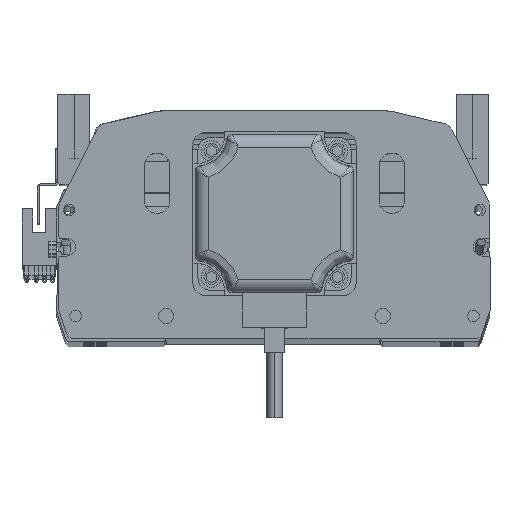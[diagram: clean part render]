
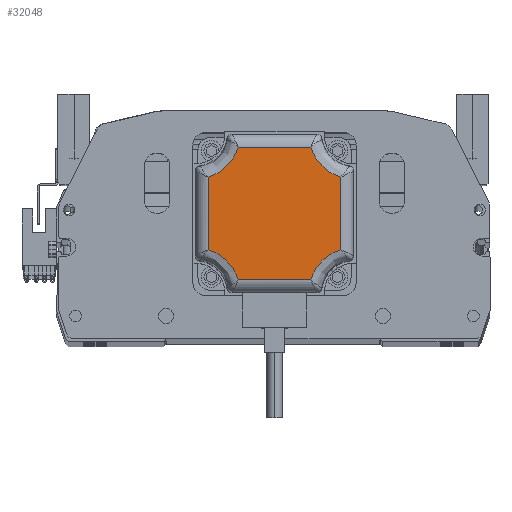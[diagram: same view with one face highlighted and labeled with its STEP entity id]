
A CAD part, top view. The second image highlights one B-rep face of the part: STEP entity #32048.
In plain terms, the highlighted planar face has unit normal (0, 0, 1) as drawn and (0, 0, -1) by its records, which use the part's own axes.
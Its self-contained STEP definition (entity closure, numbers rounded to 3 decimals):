
#1279 = CARTESIAN_POINT ( 'NONE',  ( 20.219, -15.953, -116.5 ) ) ;
#1881 = CARTESIAN_POINT ( 'NONE',  ( 14.229, 26., -116.5 ) ) ;
#3511 = ORIENTED_EDGE ( 'NONE', *, *, #37948, .F. ) ;
#4332 =( BOUNDED_CURVE ( )  B_SPLINE_CURVE ( 3, ( #40547, #37127, #5686, #33025 ),
 .UNSPECIFIED., .F., .F. ) 
 B_SPLINE_CURVE_WITH_KNOTS ( ( 4, 4 ),
 ( 0., 1. ),
 .UNSPECIFIED. ) 
 CURVE ( )  GEOMETRIC_REPRESENTATION_ITEM ( )  RATIONAL_B_SPLINE_CURVE ( ( 1., 0.92, 0.92, 1. ) ) 
 REPRESENTATION_ITEM ( '' )  );
#5066 = CARTESIAN_POINT ( 'NONE',  ( 26., -14.229, -116.5 ) ) ;
#5686 = CARTESIAN_POINT ( 'NONE',  ( 15.953, 20.219, -116.5 ) ) ;
#7280 = CARTESIAN_POINT ( 'NONE',  ( 14.229, -26., -116.5 ) ) ;
#8151 = CARTESIAN_POINT ( 'NONE',  ( 26., -14.229, -116.5 ) ) ;
#9437 = FACE_OUTER_BOUND ( 'NONE', #34401, .T. ) ;
#9600 = DIRECTION ( 'NONE',  ( 0., 0., 1. ) ) ;
#10141 = EDGE_CURVE ( 'NONE', #24956, #11980, #4332, .T. ) ;
#10224 = LINE ( 'NONE', #40934, #20117 ) ;
#11355 = ORIENTED_EDGE ( 'NONE', *, *, #10141, .F. ) ;
#11980 = VERTEX_POINT ( 'NONE', #1881 ) ;
#12062 = DIRECTION ( 'NONE',  ( 0., 1., 0. ) ) ;
#13369 = CARTESIAN_POINT ( 'NONE',  ( 0., 0., -116.5 ) ) ;
#13685 = DIRECTION ( 'NONE',  ( 1., 0., 0. ) ) ;
#14187 = CARTESIAN_POINT ( 'NONE',  ( -26., -14.229, -116.5 ) ) ;
#14304 = CARTESIAN_POINT ( 'NONE',  ( -26., 15.5, -116.5 ) ) ;
#14354 = EDGE_CURVE ( 'NONE', #50164, #17108, #32360, .T. ) ;
#14537 = CARTESIAN_POINT ( 'NONE',  ( -14.229, -26., -116.5 ) ) ;
#16809 = CARTESIAN_POINT ( 'NONE',  ( -15.953, -20.219, -116.5 ) ) ;
#16836 = CARTESIAN_POINT ( 'NONE',  ( -26., 14.229, -116.5 ) ) ;
#17108 = VERTEX_POINT ( 'NONE', #14187 ) ;
#17670 = VECTOR ( 'NONE', #41712, 1000. ) ;
#18109 = CARTESIAN_POINT ( 'NONE',  ( -20.219, 15.953, -116.5 ) ) ;
#18518 = CARTESIAN_POINT ( 'NONE',  ( 15.5, 26., -116.5 ) ) ;
#18598 = ORIENTED_EDGE ( 'NONE', *, *, #22913, .F. ) ;
#20117 = VECTOR ( 'NONE', #13685, 1000. ) ;
#20750 =( BOUNDED_CURVE ( )  B_SPLINE_CURVE ( 3, ( #47934, #24578, #16809, #24918 ),
 .UNSPECIFIED., .F., .T. ) 
 B_SPLINE_CURVE_WITH_KNOTS ( ( 4, 4 ),
 ( 0., 1. ),
 .UNSPECIFIED. ) 
 CURVE ( )  GEOMETRIC_REPRESENTATION_ITEM ( )  RATIONAL_B_SPLINE_CURVE ( ( 1., 0.92, 0.92, 1. ) ) 
 REPRESENTATION_ITEM ( '' )  );
#22453 = VECTOR ( 'NONE', #12062, 1000. ) ;
#22913 = EDGE_CURVE ( 'NONE', #11980, #48530, #37204, .T. ) ;
#23455 = ORIENTED_EDGE ( 'NONE', *, *, #14354, .F. ) ;
#24578 = CARTESIAN_POINT ( 'NONE',  ( -20.219, -15.953, -116.5 ) ) ;
#24918 = CARTESIAN_POINT ( 'NONE',  ( -14.229, -26., -116.5 ) ) ;
#24956 = VERTEX_POINT ( 'NONE', #30445 ) ;
#25118 = PLANE ( 'NONE',  #32843 ) ;
#25852 = CARTESIAN_POINT ( 'NONE',  ( -15.953, 20.219, -116.5 ) ) ;
#25965 = VERTEX_POINT ( 'NONE', #14537 ) ;
#28295 =( BOUNDED_CURVE ( )  B_SPLINE_CURVE ( 3, ( #40589, #43988, #1279, #5066 ),
 .UNSPECIFIED., .F., .T. ) 
 B_SPLINE_CURVE_WITH_KNOTS ( ( 4, 4 ),
 ( 0., 1. ),
 .UNSPECIFIED. ) 
 CURVE ( )  GEOMETRIC_REPRESENTATION_ITEM ( )  RATIONAL_B_SPLINE_CURVE ( ( 1., 0.92, 0.92, 1. ) ) 
 REPRESENTATION_ITEM ( '' )  );
#28309 = EDGE_CURVE ( 'NONE', #48530, #50164, #41100, .T. ) ;
#29055 = CARTESIAN_POINT ( 'NONE',  ( -14.229, 26., -116.5 ) ) ;
#29748 = LINE ( 'NONE', #50580, #22453 ) ;
#29766 = CARTESIAN_POINT ( 'NONE',  ( -14.229, 26., -116.5 ) ) ;
#30445 = CARTESIAN_POINT ( 'NONE',  ( 26., 14.229, -116.5 ) ) ;
#30719 = EDGE_CURVE ( 'NONE', #45615, #24956, #29748, .T. ) ;
#32048 = ADVANCED_FACE ( 'NONE', ( #9437 ), #25118, .F. ) ;
#32360 = LINE ( 'NONE', #14304, #17670 ) ;
#32843 = AXIS2_PLACEMENT_3D ( 'NONE', #13369, #9600, #40965 ) ;
#33025 = CARTESIAN_POINT ( 'NONE',  ( 14.229, 26., -116.5 ) ) ;
#33633 = ORIENTED_EDGE ( 'NONE', *, *, #28309, .F. ) ;
#34401 = EDGE_LOOP ( 'NONE', ( #33633, #18598, #11355, #45485, #3511, #46007, #47827, #23455 ) ) ;
#37127 = CARTESIAN_POINT ( 'NONE',  ( 20.219, 15.953, -116.5 ) ) ;
#37204 = LINE ( 'NONE', #18518, #47025 ) ;
#37603 = CARTESIAN_POINT ( 'NONE',  ( -26., 14.229, -116.5 ) ) ;
#37672 = DIRECTION ( 'NONE',  ( -1., 0., 0. ) ) ;
#37948 = EDGE_CURVE ( 'NONE', #45574, #45615, #28295, .T. ) ;
#39364 = EDGE_CURVE ( 'NONE', #17108, #25965, #20750, .T. ) ;
#40310 = EDGE_CURVE ( 'NONE', #25965, #45574, #10224, .T. ) ;
#40547 = CARTESIAN_POINT ( 'NONE',  ( 26., 14.229, -116.5 ) ) ;
#40589 = CARTESIAN_POINT ( 'NONE',  ( 14.229, -26., -116.5 ) ) ;
#40934 = CARTESIAN_POINT ( 'NONE',  ( -15.5, -26., -116.5 ) ) ;
#40965 = DIRECTION ( 'NONE',  ( 1., 0., 0. ) ) ;
#41100 =( BOUNDED_CURVE ( )  B_SPLINE_CURVE ( 3, ( #29766, #25852, #18109, #37603 ),
 .UNSPECIFIED., .F., .F. ) 
 B_SPLINE_CURVE_WITH_KNOTS ( ( 4, 4 ),
 ( 0., 1. ),
 .UNSPECIFIED. ) 
 CURVE ( )  GEOMETRIC_REPRESENTATION_ITEM ( )  RATIONAL_B_SPLINE_CURVE ( ( 1., 0.92, 0.92, 1. ) ) 
 REPRESENTATION_ITEM ( '' )  );
#41712 = DIRECTION ( 'NONE',  ( 0., -1., 0. ) ) ;
#43988 = CARTESIAN_POINT ( 'NONE',  ( 15.953, -20.219, -116.5 ) ) ;
#45485 = ORIENTED_EDGE ( 'NONE', *, *, #30719, .F. ) ;
#45574 = VERTEX_POINT ( 'NONE', #7280 ) ;
#45615 = VERTEX_POINT ( 'NONE', #8151 ) ;
#46007 = ORIENTED_EDGE ( 'NONE', *, *, #40310, .F. ) ;
#47025 = VECTOR ( 'NONE', #37672, 1000. ) ;
#47827 = ORIENTED_EDGE ( 'NONE', *, *, #39364, .F. ) ;
#47934 = CARTESIAN_POINT ( 'NONE',  ( -26., -14.229, -116.5 ) ) ;
#48530 = VERTEX_POINT ( 'NONE', #29055 ) ;
#50164 = VERTEX_POINT ( 'NONE', #16836 ) ;
#50580 = CARTESIAN_POINT ( 'NONE',  ( 26., -15.5, -116.5 ) ) ;
